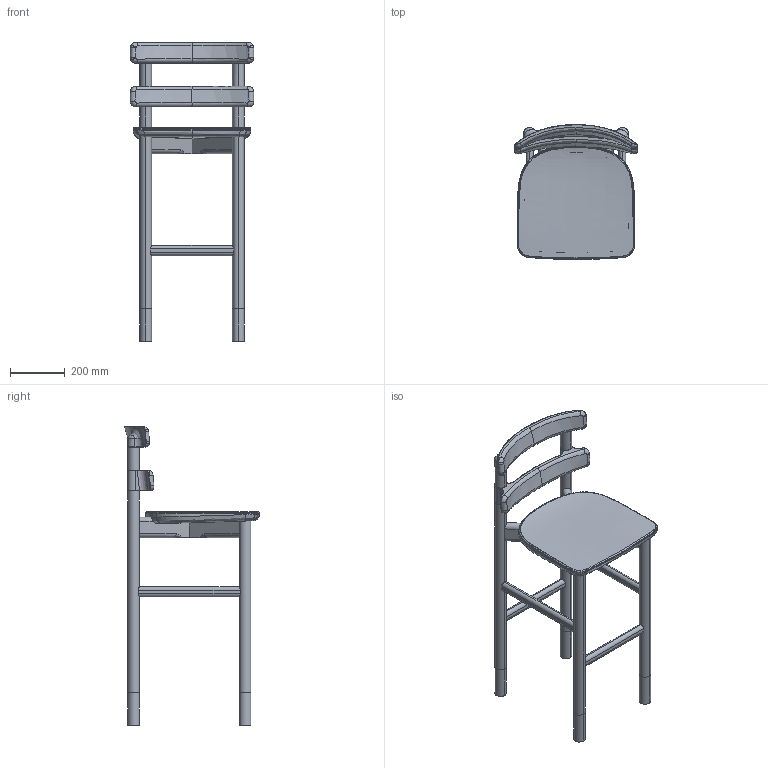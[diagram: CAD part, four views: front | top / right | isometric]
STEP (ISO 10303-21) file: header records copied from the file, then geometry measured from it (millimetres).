
FILE_DESCRIPTION(/* description */ (''),/* implementation_level */ '2;1');
FILE_NAME(/* name */ 'SISTA_tabouret tapissé_770',/* time_stamp */ '2026-06-03T11:23:19+02:00',/* author */ (''),/* organization */ (''),/* preprocessor_version */ 'ST-DEVELOPER v19.2',/* originating_system */ 'Rhino 8.31',/* authorisation */ '');
FILE_SCHEMA (('CONFIG_CONTROL_DESIGN'));
Length unit declared in the file: millimetre
Products named in the file (1): Document
Bounding box: 450 x 491.29 x 1090 mm (x, y, z)
Volume: 9897310.4 mm3; surface area: 1471107.9 mm2
Topology: 16 solids, 19 shells, 477 faces, 1080 edges, 631 vertices
Faces by surface type: bspline 266, cylinder 136, plane 75
Entity records: 131202 total; most frequent: CARTESIAN_POINT 122407, ORIENTED_EDGE 2107, EDGE_CURVE 1061, DIRECTION 1001, B_SPLINE_CURVE_WITH_KNOTS 659, VERTEX_POINT 624, AXIS2_PLACEMENT_3D 604, EDGE_LOOP 474
